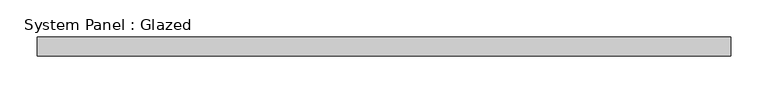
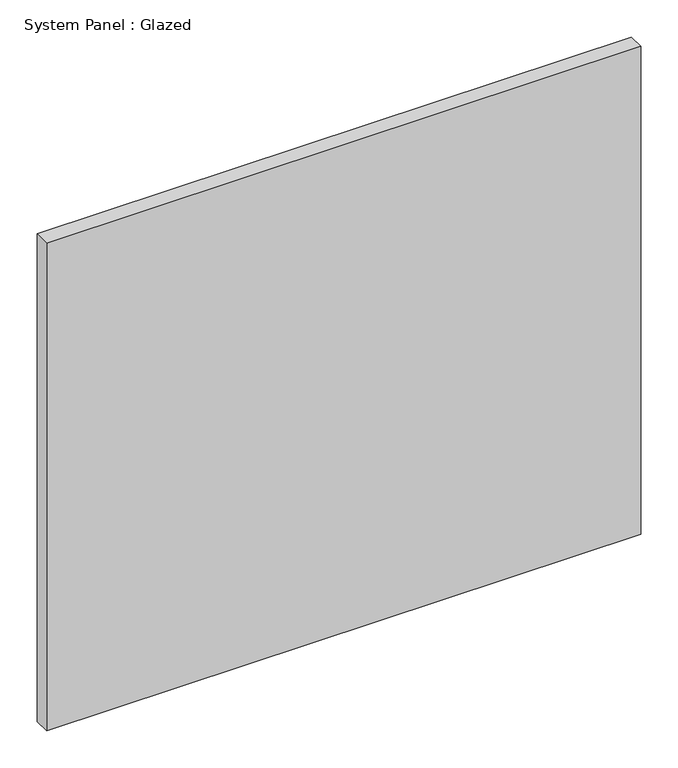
"""IFC4 building model written with IfcOpenShell, lengths in millimetres: plate geometry, System Panel : Glazed."""

from ifc_helpers import new_model, si_unit, origin, origin_with_axes, place, context, project, spatial, polyline, outline, extrude, source, transform, mapped, element, save


def system_panel_glazed_2e07d642(model_context):
    return source(origin(), model_context, "Body", "SweptSolid", [
        extrude(outline(polyline([(462.5088063, -44.45), (-462.5088063, -44.45), (-462.5088063, -19.05), (462.5088063, -19.05), (462.5088063, -44.45)])), origin_with_axes(), (0.0, 0.0, 1.0), 802.4190025),
    ])


if __name__ == "__main__":
    model = new_model("IFC4")
    model_context = context("Model", 3, world=origin())
    ifc_project = project(units=[si_unit("LENGTHUNIT", "METRE", prefix="MILLI")], contexts=[model_context])
    site = spatial("IfcSite", under=ifc_project)
    building = spatial("IfcBuilding", under=site)
    placement = place(None, origin())
    system_panel_glazed_shape = system_panel_glazed_2e07d642(model_context)
    element("IfcPlate", 1, ObjectType="System Panel : Glazed", at=placement, inside=building, context=model_context, shape_type="MappedRepresentation", body=[
        mapped(system_panel_glazed_shape, transform((0.0, 0.0, 0.0), x_axis=(1.0, 0.0, 0.0), y_axis=(0.0, 1.0, 0.0), z_axis=(0.0, 0.0, 1.0))),
    ])
    save(model, "model.ifc")
